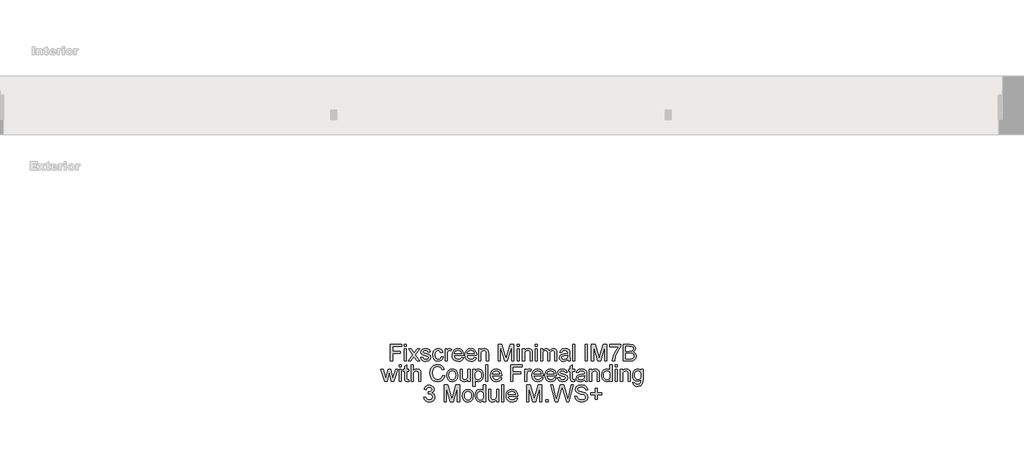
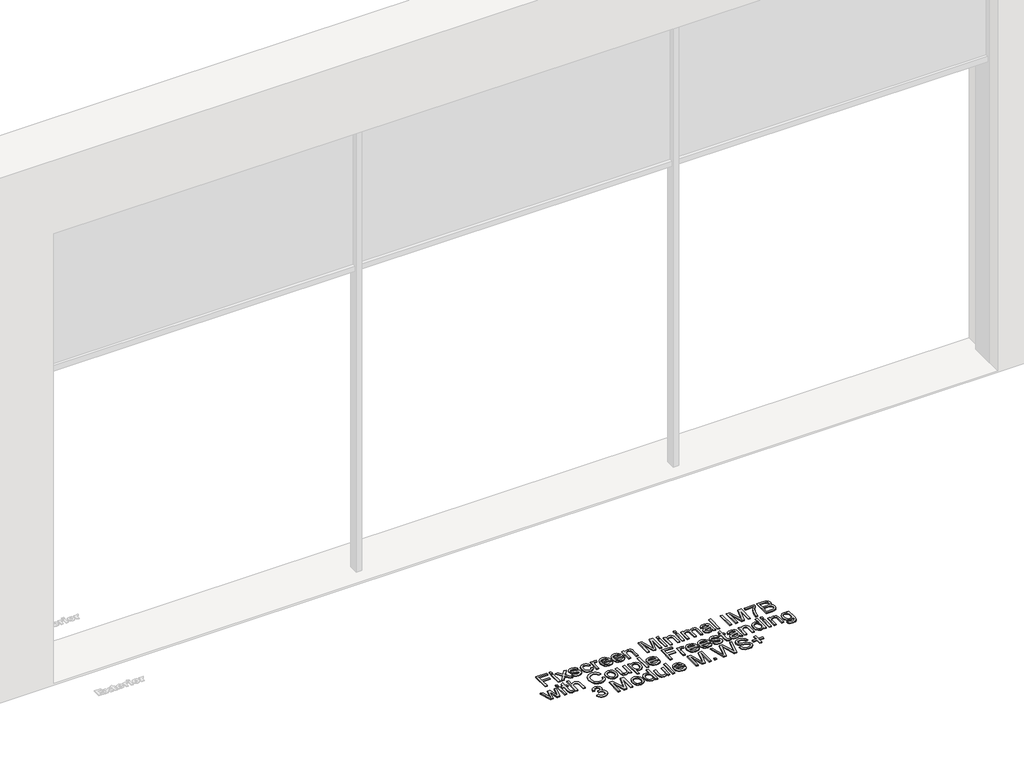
# One storey, part 12 of 14: 1 proxy.
"""IFC4 building model written with IfcOpenShell, lengths in millimetres."""

from ifc_helpers import new_model, si_unit, origin, origin_with_axes, place, context, project, spatial, polyline, outline, extrude, element, save

model = new_model("IFC4")

# Units and contexts
model_context = context("Model", 3, world=origin())
ifc_project = project(units=[si_unit("LENGTHUNIT", "METRE", prefix="MILLI")], contexts=[model_context])

# Site, building, storey
site = spatial("IfcSite", under=ifc_project)
building = spatial("IfcBuilding", under=site)
storey = spatial("IfcBuildingStorey", under=building, Name="Fixscreen Mini CF Overview Top", Elevation=0.0)

# Proxy
placement = place(None, origin())
element("IfcBuildingElementProxy", 1, Name="100mm Arial", ObjectType="100mm Arial", at=placement, inside=storey, context=model_context, shape_type="SweptSolid", body=[
    extrude(outline(polyline([(294.8320577, 2800.5131875), (294.8320577, 2900.9694977), (362.3261411, 2900.9694977), (362.3261411, 2888.4124589), (307.3890965, 2888.4124589), (307.3890965, 2858.5894918), (354.4779918, 2858.5894918), (354.4779918, 2846.0324531), (307.3890965, 2846.0324531), (307.3890965, 2800.5131875), (294.8320577, 2800.5131875)])), origin_with_axes(), (0.0, 0.0, 1.0), 5.0),
    extrude(outline(polyline([(378.0224395, 2800.5131875), (378.0224395, 2874.2857903), (390.5794783, 2874.2857903), (390.5794783, 2800.5131875), (378.0224395, 2800.5131875)])), origin_with_axes(), (0.0, 0.0, 1.0), 5.0),
    extrude(outline(polyline([(378.0224395, 2888.4124589), (378.0224395, 2900.9694977), (390.5794783, 2900.9694977), (390.5794783, 2888.4124589), (378.0224395, 2888.4124589)])), origin_with_axes(), (0.0, 0.0, 1.0), 5.0),
    extrude(outline(polyline([(401.5668872, 2800.5131875), (428.3977474, 2837.5956927), (403.1365171, 2874.2857903), (418.2442043, 2874.2857903), (430.4333611, 2856.6274545), (436.1232693, 2848.288796), (441.052888, 2855.1068756), (454.934302, 2874.2857903), (470.0419893, 2874.2857903), (443.5054347, 2837.5956927), (469.0609706, 2800.5131875), (453.9532833, 2800.5131875), (438.5758159, 2822.8068365), (435.7553873, 2826.8780639), (416.6745745, 2800.5131875), (401.5668872, 2800.5131875)])), origin_with_axes(), (0.0, 0.0, 1.0), 5.0),
    extrude(outline(polyline([(475.33949, 2822.4880054), (487.8965288, 2824.0576352), (493.7090643, 2814.737958), (507.0263925, 2811.5005965), (519.8286859, 2814.4681779), (523.9980152, 2821.4334103), (519.8041605, 2827.0742676), (506.8792397, 2830.6549857), (487.9701052, 2836.798615), (479.7172857, 2843.9723139), (476.9091198, 2854.1013315), (479.1654627, 2863.4577969), (485.3213548, 2870.6069704), (493.3043941, 2874.3225785), (504.107862, 2875.8554202), (519.3872275, 2873.3906108), (529.0993122, 2866.7196839), (533.4157943, 2855.4502322), (520.8587555, 2853.8806023), (516.1376033, 2860.8090466), (505.0888807, 2863.2983814), (493.0714022, 2860.9194112), (489.4661586, 2855.3766558), (490.9622121, 2851.7223613), (495.6465761, 2848.9509836), (506.4623068, 2846.2777077), (524.8931947, 2840.3670704), (533.4525825, 2833.671618), (536.555054, 2822.7577855), (532.9130222, 2810.740307), (522.4038599, 2802.0215037), (506.8547142, 2798.9435577), (494.1934422, 2800.4273484), (484.9534728, 2804.8787206), (478.785318, 2812.2486232), (475.33949, 2822.4880054)])), origin_with_axes(), (0.0, 0.0, 1.0), 5.0),
    extrude(outline(polyline([(597.770618, 2827.1968949), (610.3276568, 2825.6272651), (606.8266464, 2814.4589808), (600.2476901, 2806.0191547), (591.2100557, 2800.712457), (580.3330114, 2798.9435577), (566.9758293, 2801.4114327), (556.5310463, 2808.8150579), (549.7896088, 2820.8294707), (547.5424629, 2837.1297088), (551.3806984, 2857.9886179), (563.0793458, 2871.3917853), (580.1613332, 2875.8554202), (590.771663, 2874.3225785), (599.2544087, 2869.7240536), (605.33979, 2862.3051), (608.7580269, 2852.3109725), (596.2009881, 2850.7413426), (590.3761899, 2860.146859), (580.259435, 2863.2983814), (572.1445713, 2861.7471456), (565.7035707, 2857.0934384), (561.5005189, 2849.0858736), (560.0995017, 2837.4730653), (561.4698621, 2825.7039072), (565.5809434, 2817.6687513), (571.905448, 2813.0426352), (579.9160785, 2811.5005965), (591.749616, 2815.3510947), (597.770618, 2827.1968949)])), origin_with_axes(), (0.0, 0.0, 1.0), 5.0),
    extrude(outline(polyline([(621.3150657, 2800.5131875), (621.3150657, 2874.2857903), (632.3024746, 2874.2857903), (632.3024746, 2863.3719578), (640.1015729, 2873.427399), (647.9497221, 2875.8554202), (660.5558118, 2871.9803965), (656.3619571, 2860.7232074), (647.5327892, 2863.2983814), (640.4326667, 2860.8213093), (635.9077182, 2853.9541787), (633.8721044, 2839.2879498), (633.8721044, 2800.5131875), (621.3150657, 2800.5131875)])), origin_with_axes(), (0.0, 0.0, 1.0), 5.0),
    extrude(outline(polyline([(720.0545932, 2822.4880054), (732.3663773, 2820.9183755), (727.9303336, 2811.6416179), (720.8516708, 2804.7070423), (711.2898046, 2800.3844288), (699.4041505, 2798.9435577), (684.6704766, 2801.4298268), (673.3335798, 2808.8886343), (666.1046986, 2820.8356021), (663.6950715, 2836.7863523), (666.1292241, 2853.273597), (673.4316817, 2865.6037752), (684.6152943, 2873.2925089), (698.692912, 2875.8554202), (712.332137, 2873.2986403), (723.2306411, 2865.6283007), (730.3767488, 2853.322648), (732.7587848, 2836.8599287), (732.6852084, 2833.4754143), (676.2521103, 2833.4754143), (678.4256797, 2824.0760293), (683.4748601, 2817.1659792), (690.7619893, 2812.9169421), (699.6494052, 2811.5005965), (711.9611893, 2814.1248214), (720.0545932, 2822.4880054)]), holes=[polyline([(676.2521103, 2846.0324531), (720.201746, 2846.0324531), (715.1740254, 2857.4122695), (707.8531737, 2861.8268534), (698.6438611, 2863.2983814), (683.1805545, 2858.6017546), (678.3153151, 2853.1111158), (676.2521103, 2846.0324531)])]), origin_with_axes(), (0.0, 0.0, 1.0), 5.0),
    extrude(outline(polyline([(796.9664556, 2822.4880054), (809.2782397, 2820.9183755), (804.842196, 2811.6416179), (797.7635333, 2804.7070423), (788.2016671, 2800.3844288), (776.316013, 2798.9435577), (761.5823391, 2801.4298268), (750.2454423, 2808.8886343), (743.016561, 2820.8356021), (740.606934, 2836.7863523), (743.0410865, 2853.273597), (750.3435441, 2865.6037752), (761.5271568, 2873.2925089), (775.6047745, 2875.8554202), (789.2439994, 2873.2986403), (800.1425035, 2865.6283007), (807.2886113, 2853.322648), (809.6706472, 2836.8599287), (809.5970708, 2833.4754143), (753.1639728, 2833.4754143), (755.3375422, 2824.0760293), (760.3867226, 2817.1659792), (767.6738518, 2812.9169421), (776.5612676, 2811.5005965), (788.8730517, 2814.1248214), (796.9664556, 2822.4880054)]), holes=[polyline([(753.1639728, 2846.0324531), (797.1136084, 2846.0324531), (792.0858878, 2857.4122695), (784.7650361, 2861.8268534), (775.5557235, 2863.2983814), (760.092417, 2858.6017546), (755.2271776, 2853.1111158), (753.1639728, 2846.0324531)])]), origin_with_axes(), (0.0, 0.0, 1.0), 5.0),
    extrude(outline(polyline([(822.227686, 2800.5131875), (822.227686, 2874.2857903), (834.7847247, 2874.2857903), (834.7847247, 2863.9850944), (844.3864448, 2872.8878387), (857.4953066, 2875.8554202), (869.3533696, 2873.4641872), (877.4467735, 2867.1856678), (881.2114325, 2857.9518297), (881.8736201, 2845.8117239), (881.8736201, 2800.5131875), (869.3165814, 2800.5131875), (869.3165814, 2844.1194667), (867.8695788, 2855.229503), (862.7560191, 2861.1033521), (854.1353177, 2863.2983814), (840.5114211, 2858.3687627), (836.2163988, 2851.2257206), (834.7847247, 2839.6558318), (834.7847247, 2800.5131875), (822.227686, 2800.5131875)])), origin_with_axes(), (0.0, 0.0, 1.0), 5.0),
    extrude(outline(polyline([(939.9499244, 2800.5131875), (939.9499244, 2900.9694977), (961.5568603, 2900.9694977), (982.1092011, 2830.1644764), (986.2540049, 2815.3756201), (990.7421652, 2831.3907497), (1010.9511495, 2900.9694977), (1032.5580854, 2900.9694977), (1032.5580854, 2800.5131875), (1020.0010466, 2800.5131875), (1020.0010466, 2888.4124589), (994.7643417, 2800.5131875), (977.7436681, 2800.5131875), (952.5069632, 2888.4124589), (952.5069632, 2800.5131875), (939.9499244, 2800.5131875)])), origin_with_axes(), (0.0, 0.0, 1.0), 5.0),
    extrude(outline(polyline([(1052.9632734, 2888.4124589), (1052.9632734, 2900.9694977), (1065.5203121, 2900.9694977), (1065.5203121, 2888.4124589), (1052.9632734, 2888.4124589)])), origin_with_axes(), (0.0, 0.0, 1.0), 5.0),
    extrude(outline(polyline([(1052.9632734, 2800.5131875), (1052.9632734, 2874.2857903), (1065.5203121, 2874.2857903), (1065.5203121, 2800.5131875), (1052.9632734, 2800.5131875)])), origin_with_axes(), (0.0, 0.0, 1.0), 5.0),
    extrude(outline(polyline([(1084.3558703, 2800.5131875), (1084.3558703, 2874.2857903), (1096.912909, 2874.2857903), (1096.912909, 2863.9850944), (1106.5146291, 2872.8878387), (1119.6234909, 2875.8554202), (1131.4815539, 2873.4641872), (1139.5749578, 2867.1856678), (1143.3396168, 2857.9518297), (1144.0018044, 2845.8117239), (1144.0018044, 2800.5131875), (1131.4447657, 2800.5131875), (1131.4447657, 2844.1194667), (1129.9977631, 2855.229503), (1124.8842034, 2861.1033521), (1116.263502, 2863.2983814), (1102.6396054, 2858.3687627), (1098.3445831, 2851.2257206), (1096.912909, 2839.6558318), (1096.912909, 2800.5131875), (1084.3558703, 2800.5131875)])), origin_with_axes(), (0.0, 0.0, 1.0), 5.0),
    extrude(outline(polyline([(1161.2677327, 2800.5131875), (1161.2677327, 2874.2857903), (1173.8247715, 2874.2857903), (1173.8247715, 2800.5131875), (1161.2677327, 2800.5131875)])), origin_with_axes(), (0.0, 0.0, 1.0), 5.0),
    extrude(outline(polyline([(1161.2677327, 2888.4124589), (1161.2677327, 2900.9694977), (1173.8247715, 2900.9694977), (1173.8247715, 2888.4124589), (1161.2677327, 2888.4124589)])), origin_with_axes(), (0.0, 0.0, 1.0), 5.0),
    extrude(outline(polyline([(1192.6603297, 2800.5131875), (1192.6603297, 2874.2857903), (1205.2173684, 2874.2857903), (1205.2173684, 2862.1456845), (1213.8503326, 2872.0907611), (1226.1375912, 2875.8554202), (1238.7191555, 2872.0171847), (1245.635337, 2861.2627677), (1255.4332608, 2872.207257), (1267.8063585, 2875.8554202), (1277.2455974, 2874.3379069), (1284.2261583, 2869.7853672), (1288.5395746, 2862.0751738), (1289.9773801, 2851.0846991), (1289.9773801, 2800.5131875), (1277.4203413, 2800.5131875), (1277.4203413, 2845.6890966), (1276.2553817, 2856.1737334), (1272.0370015, 2861.3363441), (1264.8633026, 2863.2983814), (1252.5147303, 2858.2706608), (1248.8267133, 2851.7284926), (1247.5973743, 2842.1574294), (1247.5973743, 2800.5131875), (1235.0403355, 2800.5131875), (1235.0403355, 2847.0870481), (1232.1340677, 2859.2516794), (1222.6059241, 2863.2983814), (1213.3107723, 2860.6005801), (1207.1303548, 2852.7033799), (1205.2173684, 2837.71832), (1205.2173684, 2800.5131875), (1192.6603297, 2800.5131875)])), origin_with_axes(), (0.0, 0.0, 1.0), 5.0),
    extrude(outline(polyline([(1355.9018336, 2809.9309666), (1343.7249396, 2801.4206298), (1330.2727213, 2798.9435577), (1319.7788874, 2800.4334798), (1312.0380371, 2804.903246), (1307.2647682, 2811.6906688), (1305.6736786, 2820.1335606), (1308.0771743, 2830.0663745), (1314.3924819, 2837.2768616), (1323.1848615, 2841.3971399), (1334.0496431, 2843.2856008), (1355.8282572, 2847.6020829), (1355.9018336, 2850.3979861), (1352.4437429, 2859.6686124), (1338.5623289, 2863.2983814), (1325.8581374, 2860.882623), (1319.8003472, 2852.3109725), (1307.2433084, 2853.8806023), (1312.6756992, 2866.1433355), (1323.6140572, 2873.3292971), (1340.1810097, 2875.8554202), (1355.3990616, 2873.6236027), (1363.9952375, 2868.0195337), (1367.8457358, 2859.4969341), (1368.4588724, 2848.5095252), (1368.4588724, 2832.8868031), (1369.0965345, 2811.0714008), (1371.5981321, 2800.5131875), (1359.0410933, 2800.5131875), (1355.9018336, 2809.9309666)]), holes=[polyline([(1355.9018336, 2835.0450442), (1335.6437984, 2831.1945459), (1324.8403305, 2829.1589322), (1319.9475, 2825.8479943), (1318.2307173, 2821.0164774), (1321.970851, 2814.2229232), (1332.9459971, 2811.5005965), (1345.6501887, 2814.5049661), (1353.8416945, 2821.7767669), (1355.8282572, 2831.4888515), (1355.9018336, 2835.0450442)])]), origin_with_axes(), (0.0, 0.0, 1.0), 5.0),
    extrude(outline(polyline([(1385.7248007, 2800.5131875), (1385.7248007, 2900.9694977), (1398.2818395, 2900.9694977), (1398.2818395, 2800.5131875), (1385.7248007, 2800.5131875)])), origin_with_axes(), (0.0, 0.0, 1.0), 5.0),
    extrude(outline(polyline([(1459.4974035, 2800.5131875), (1459.4974035, 2900.9694977), (1472.0544423, 2900.9694977), (1472.0544423, 2800.5131875), (1459.4974035, 2800.5131875)])), origin_with_axes(), (0.0, 0.0, 1.0), 5.0),
    extrude(outline(polyline([(1497.1685198, 2800.5131875), (1497.1685198, 2900.9694977), (1518.7754556, 2900.9694977), (1539.3277964, 2830.1644764), (1543.4726003, 2815.3756201), (1547.9607606, 2831.3907497), (1568.1697449, 2900.9694977), (1589.7766807, 2900.9694977), (1589.7766807, 2800.5131875), (1577.2196419, 2800.5131875), (1577.2196419, 2888.4124589), (1551.9829371, 2800.5131875), (1534.9622634, 2800.5131875), (1509.7255586, 2888.4124589), (1509.7255586, 2800.5131875), (1497.1685198, 2800.5131875)])), origin_with_axes(), (0.0, 0.0, 1.0), 5.0),
    extrude(outline(polyline([(1607.042609, 2886.8428291), (1607.042609, 2899.3998678), (1672.9670626, 2899.3998678), (1672.9670626, 2889.2463248), (1654.2663945, 2862.2315236), (1639.9557849, 2827.8100316), (1635.2959463, 2800.5131875), (1622.7389075, 2800.5131875), (1627.7298399, 2828.8401012), (1641.4273128, 2860.8580975), (1660.4100238, 2886.8428291), (1607.042609, 2886.8428291)])), origin_with_axes(), (0.0, 0.0, 1.0), 5.0),
    extrude(outline(polyline([(1688.663361, 2800.5131875), (1688.663361, 2900.9694977), (1726.9966649, 2900.9694977), (1745.7709094, 2898.014179), (1756.8564202, 2888.9274937), (1760.8663339, 2876.0761494), (1757.4940823, 2864.3407137), (1747.303751, 2855.4502322), (1759.6768488, 2846.081504), (1764.0055936, 2830.458782), (1761.0502749, 2816.9575127), (1753.7294232, 2807.3435299), (1742.803328, 2802.2422329), (1726.7023593, 2800.5131875), (1688.663361, 2800.5131875)]), holes=[polyline([(1701.2203998, 2860.1591217), (1724.1517108, 2860.1591217), (1737.5426154, 2861.2382422), (1745.5992311, 2865.8858181), (1748.3092952, 2874.0650611), (1745.7831721, 2882.2565669), (1738.5481596, 2887.1003465), (1722.4104027, 2888.4124589), (1701.2203998, 2888.4124589), (1701.2203998, 2860.1591217)]), polyline([(1701.2203998, 2813.0702263), (1726.9721394, 2813.0702263), (1736.2918167, 2813.5607356), (1744.1767541, 2816.2953251), (1749.4006784, 2821.8748687), (1751.4485549, 2830.3361546), (1749.0450592, 2840.0972902), (1741.2582236, 2845.9220885), (1725.7458661, 2847.6020829), (1701.2203998, 2847.6020829), (1701.2203998, 2813.0702263)])]), origin_with_axes(), (0.0, 0.0, 1.0), 5.0),
    extrude(outline(polyline([(260.7661849, 2678.5383697), (238.3253832, 2752.3109725), (251.3729313, 2752.3109725), (264.1016484, 2709.268779), (267.9030956, 2693.8913116), (271.0178299, 2708.7046933), (281.1468475, 2752.3109725), (296.1073819, 2752.3109725), (306.1873486, 2708.8273206), (308.9587263, 2695.4118905), (312.9318519, 2709.5630846), (325.6850944, 2752.3109725), (338.7816934, 2752.3109725), (316.1692134, 2678.5383697), (300.9879497, 2678.5383697), (291.3494415, 2721.8012923), (288.5535383, 2735.2902988), (276.1191269, 2678.5383697), (260.7661849, 2678.5383697)])), origin_with_axes(), (0.0, 0.0, 1.0), 5.0),
    extrude(outline(polyline([(347.4146575, 2678.5383697), (347.4146575, 2752.3109725), (359.9716963, 2752.3109725), (359.9716963, 2678.5383697), (347.4146575, 2678.5383697)])), origin_with_axes(), (0.0, 0.0, 1.0), 5.0),
    extrude(outline(polyline([(347.4146575, 2766.4376411), (347.4146575, 2778.9946798), (359.9716963, 2778.9946798), (359.9716963, 2766.4376411), (347.4146575, 2766.4376411)])), origin_with_axes(), (0.0, 0.0, 1.0), 5.0),
    extrude(outline(polyline([(405.4909618, 2689.0107438), (407.0605917, 2678.1704877), (397.6673381, 2676.9687399), (387.145913, 2679.0534045), (381.8974632, 2684.5225835), (380.3768843, 2698.7718794), (380.3768843, 2739.7539337), (370.9591052, 2739.7539337), (370.9591052, 2752.3109725), (380.3768843, 2752.3109725), (380.3768843, 2770.2390884), (392.9339231, 2777.6212537), (392.9339231, 2752.3109725), (405.4909618, 2752.3109725), (405.4909618, 2739.7539337), (392.9339231, 2739.7539337), (392.9339231, 2699.1397614), (393.5961107, 2692.6650383), (395.742089, 2690.3719072), (400.0217828, 2689.5257786), (405.4909618, 2689.0107438)])), origin_with_axes(), (0.0, 0.0, 1.0), 5.0),
    extrude(outline(polyline([(418.0480006, 2678.5383697), (418.0480006, 2778.9946798), (430.6050394, 2778.9946798), (430.6050394, 2742.0593275), (440.3968318, 2750.9252836), (452.4572299, 2753.8806023), (466.559373, 2750.6555035), (475.1187608, 2741.7404965), (477.6939348, 2725.2348576), (477.6939348, 2678.5383697), (465.136896, 2678.5383697), (465.136896, 2723.9350079), (461.139245, 2737.1787597), (449.8084795, 2741.3235635), (439.5200464, 2738.5276604), (432.6529158, 2730.9492913), (430.6050394, 2717.7300649), (430.6050394, 2678.5383697), (418.0480006, 2678.5383697)])), origin_with_axes(), (0.0, 0.0, 1.0), 5.0),
    extrude(outline(polyline([(606.4035821, 2714.2474487), (618.9606209, 2711.0100871), (613.1664795, 2696.3775808), (604.0736628, 2685.6875431), (592.1297607, 2679.1484407), (577.7823629, 2676.9687399), (563.2173016, 2678.6180775), (551.6504785, 2683.5660903), (542.7845224, 2691.6411001), (536.3220621, 2702.6714286), (531.0613495, 2729.5268142), (532.5482059, 2744.174649), (537.0087751, 2756.8236583), (544.2100652, 2767.0722375), (553.9190842, 2774.5187822), (565.4337906, 2779.0529278), (578.052143, 2780.5643097), (591.8201267, 2778.6084038), (603.2030088, 2772.7406859), (611.84517, 2763.3229069), (617.3909911, 2750.7168172), (604.8339523, 2747.7247103), (594.5332564, 2763.1634913), (577.5616337, 2768.0072709), (557.9167352, 2762.6361938), (546.8189617, 2748.2152196), (543.6183883, 2729.5513397), (547.4075728, 2707.9198784), (559.2043222, 2694.0997781), (576.5315641, 2689.5257786), (587.0131353, 2691.0831457), (595.747267, 2695.7552471), (602.3415518, 2703.4930317), (606.4035821, 2714.2474487)])), origin_with_axes(), (0.0, 0.0, 1.0), 5.0),
    extrude(outline(polyline([(631.5176597, 2715.4246711), (634.2338551, 2733.2117655), (642.3824413, 2745.713622), (652.4501452, 2751.8388572), (664.5044119, 2753.8806023), (677.6960471, 2751.3943332), (688.2328006, 2743.9355257), (695.1397851, 2732.0927911), (697.4421132, 2716.4547407), (693.3708858, 2694.1120408), (681.5128228, 2681.4691629), (664.5044119, 2676.9687399), (651.1533612, 2679.445812), (640.6288704, 2686.8770283), (633.7954624, 2698.9680832), (631.5176597, 2715.4246711)]), holes=[polyline([(644.0746984, 2715.4491965), (645.5278323, 2704.0847086), (649.887234, 2695.988239), (656.4477962, 2691.1413937), (664.5044119, 2689.5257786), (672.5242394, 2691.1505908), (679.0725389, 2696.0250272), (683.4319406, 2704.2287957), (684.8850744, 2715.841604), (683.4227435, 2726.8749982), (679.0357507, 2734.8611032), (672.4782542, 2739.7079484), (664.5044119, 2741.3235635), (656.4477962, 2739.7140798), (649.887234, 2734.8856286), (645.5278323, 2726.8075531), (644.0746984, 2715.4491965)])]), origin_with_axes(), (0.0, 0.0, 1.0), 5.0),
    extrude(outline(polyline([(758.6576772, 2678.5383697), (758.6576772, 2691.2180358), (748.8229652, 2680.5310638), (735.9961463, 2676.9687399), (724.1871343, 2679.4703374), (716.0446794, 2685.7488568), (712.3045458, 2694.9949576), (711.5687818, 2706.6690796), (711.5687818, 2752.3109725), (724.1258206, 2752.3109725), (724.1258206, 2712.579717), (724.8861101, 2699.7774236), (729.852517, 2692.2603681), (739.2089824, 2689.5257786), (749.6936193, 2692.3216818), (756.6220635, 2699.9368391), (758.6576772, 2713.9286176), (758.6576772, 2752.3109725), (771.214716, 2752.3109725), (771.214716, 2678.5383697), (758.6576772, 2678.5383697)])), origin_with_axes(), (0.0, 0.0, 1.0), 5.0),
    extrude(outline(polyline([(788.4806443, 2650.2850325), (788.4806443, 2752.3109725), (801.0376831, 2752.3109725), (801.0376831, 2739.9991884), (809.7196981, 2750.4102488), (821.4428711, 2753.8806023), (837.3598987, 2749.02456), (847.7586964, 2735.3393498), (851.2658381, 2715.9887568), (847.3049753, 2695.6448825), (835.8025316, 2681.787994), (819.9222921, 2676.9687399), (808.9961969, 2680.1938387), (801.0376831, 2688.3485562), (801.0376831, 2650.2850325), (788.4806443, 2650.2850325)]), holes=[polyline([(801.0376831, 2714.8360599), (802.3957808, 2703.5788708), (806.4700739, 2695.7061961), (812.4818788, 2691.070883), (819.652512, 2689.5257786), (826.9396412, 2691.1260653), (833.1047303, 2695.9269253), (837.3077821, 2704.0877743), (838.7087994, 2715.7680276), (837.3415046, 2726.963903), (833.2396204, 2734.9469423), (827.2370125, 2739.7294082), (820.1675468, 2741.3235635), (813.07049, 2739.6282407), (806.8379558, 2734.5422721), (802.4877513, 2726.2250733), (801.0376831, 2714.8360599)])]), origin_with_axes(), (0.0, 0.0, 1.0), 5.0),
    extrude(outline(polyline([(865.3925067, 2678.5383697), (865.3925067, 2778.9946798), (877.9495455, 2778.9946798), (877.9495455, 2678.5383697), (865.3925067, 2678.5383697)])), origin_with_axes(), (0.0, 0.0, 1.0), 5.0),
    extrude(outline(polyline([(948.4357358, 2700.5131875), (960.7475199, 2698.9435577), (956.3114762, 2689.6668001), (949.2328134, 2682.7322244), (939.6709473, 2678.409611), (927.7852931, 2676.9687399), (913.0516192, 2679.455009), (901.7147224, 2686.9138165), (894.4858412, 2698.8607842), (892.0762141, 2714.8115344), (894.5103667, 2731.2987792), (901.8128243, 2743.6289574), (912.9964369, 2751.3176911), (927.0740546, 2753.8806023), (940.7132796, 2751.3238224), (951.6117837, 2743.6534828), (958.7578914, 2731.3478301), (961.1399274, 2714.8851108), (961.066351, 2711.5005965), (904.6332529, 2711.5005965), (906.8068224, 2702.1012115), (911.8560027, 2695.1911613), (919.1431319, 2690.9421243), (928.0305478, 2689.5257786), (940.3423319, 2692.1500035), (948.4357358, 2700.5131875)]), holes=[polyline([(904.6332529, 2724.0576352), (948.5828886, 2724.0576352), (943.555168, 2735.4374516), (936.2343163, 2739.8520356), (927.0250037, 2741.3235635), (911.5616971, 2736.6269367), (906.6964578, 2731.136298), (904.6332529, 2724.0576352)])]), origin_with_axes(), (0.0, 0.0, 1.0), 5.0),
    extrude(outline(polyline([(1014.5073421, 2678.5383697), (1014.5073421, 2778.9946798), (1082.0014255, 2778.9946798), (1082.0014255, 2766.4376411), (1027.0643809, 2766.4376411), (1027.0643809, 2736.614674), (1074.1532763, 2736.614674), (1074.1532763, 2724.0576352), (1027.0643809, 2724.0576352), (1027.0643809, 2678.5383697), (1014.5073421, 2678.5383697)])), origin_with_axes(), (0.0, 0.0, 1.0), 5.0),
    extrude(outline(polyline([(1097.697724, 2678.5383697), (1097.697724, 2752.3109725), (1108.6851329, 2752.3109725), (1108.6851329, 2741.3971399), (1116.4842312, 2751.4525811), (1124.3323804, 2753.8806023), (1136.9384701, 2750.0055786), (1132.7446154, 2738.7483896), (1123.9154475, 2741.3235635), (1116.815325, 2738.8464914), (1112.2903764, 2731.9793609), (1110.2547627, 2717.313132), (1110.2547627, 2678.5383697), (1097.697724, 2678.5383697)])), origin_with_axes(), (0.0, 0.0, 1.0), 5.0),
    extrude(outline(polyline([(1196.4372515, 2700.5131875), (1208.7490356, 2698.9435577), (1204.3129919, 2689.6668001), (1197.2343291, 2682.7322244), (1187.6724629, 2678.409611), (1175.7868088, 2676.9687399), (1161.0531349, 2679.455009), (1149.7162381, 2686.9138165), (1142.4873569, 2698.8607842), (1140.0777298, 2714.8115344), (1142.5118823, 2731.2987792), (1149.8143399, 2743.6289574), (1160.9979526, 2751.3176911), (1175.0755703, 2753.8806023), (1188.7147953, 2751.3238224), (1199.6132994, 2743.6534828), (1206.7594071, 2731.3478301), (1209.141443, 2714.8851108), (1209.0678666, 2711.5005965), (1152.6347686, 2711.5005965), (1154.808338, 2702.1012115), (1159.8575184, 2695.1911613), (1167.1446476, 2690.9421243), (1176.0320635, 2689.5257786), (1188.3438476, 2692.1500035), (1196.4372515, 2700.5131875)]), holes=[polyline([(1152.6347686, 2724.0576352), (1196.5844043, 2724.0576352), (1191.5566837, 2735.4374516), (1184.235832, 2739.8520356), (1175.0265194, 2741.3235635), (1159.5632128, 2736.6269367), (1154.6979734, 2731.136298), (1152.6347686, 2724.0576352)])]), origin_with_axes(), (0.0, 0.0, 1.0), 5.0),
    extrude(outline(polyline([(1273.3491139, 2700.5131875), (1285.660898, 2698.9435577), (1281.2248543, 2689.6668001), (1274.1461916, 2682.7322244), (1264.5843254, 2678.409611), (1252.6986713, 2676.9687399), (1237.9649974, 2679.455009), (1226.6281005, 2686.9138165), (1219.3992193, 2698.8607842), (1216.9895923, 2714.8115344), (1219.4237448, 2731.2987792), (1226.7262024, 2743.6289574), (1237.9098151, 2751.3176911), (1251.9874327, 2753.8806023), (1265.6266577, 2751.3238224), (1276.5251618, 2743.6534828), (1283.6712696, 2731.3478301), (1286.0533055, 2714.8851108), (1285.9797291, 2711.5005965), (1229.546631, 2711.5005965), (1231.7202005, 2702.1012115), (1236.7693809, 2695.1911613), (1244.0565101, 2690.9421243), (1252.9439259, 2689.5257786), (1265.25571, 2692.1500035), (1273.3491139, 2700.5131875)]), holes=[polyline([(1229.546631, 2724.0576352), (1273.4962667, 2724.0576352), (1268.4685461, 2735.4374516), (1261.1476944, 2739.8520356), (1251.9383818, 2741.3235635), (1236.4750753, 2736.6269367), (1231.6098359, 2731.136298), (1229.546631, 2724.0576352)])]), origin_with_axes(), (0.0, 0.0, 1.0), 5.0),
    extrude(outline(polyline([(1293.9014547, 2700.5131875), (1306.4584935, 2702.0828174), (1312.271029, 2692.7631402), (1325.5883572, 2689.5257786), (1338.3906507, 2692.49336), (1342.55998, 2699.4585925), (1338.3661252, 2705.0994497), (1325.4412044, 2708.6801678), (1306.5320699, 2714.8237972), (1298.2792505, 2721.9974961), (1295.4710846, 2732.1265137), (1297.7274275, 2741.4829791), (1303.8833195, 2748.6321525), (1311.8663588, 2752.3477607), (1322.6698268, 2753.8806023), (1337.9491923, 2751.4157929), (1347.661277, 2744.7448661), (1351.977759, 2733.4754143), (1339.4207203, 2731.9057845), (1334.699568, 2738.8342287), (1323.6508454, 2741.3235635), (1311.6333669, 2738.9445933), (1308.0281233, 2733.4018379), (1309.5241768, 2729.7475434), (1314.2085409, 2726.9761657), (1325.0242715, 2724.3028899), (1343.4551595, 2718.3922525), (1352.0145472, 2711.6968002), (1355.1170187, 2700.7829677), (1351.474987, 2688.7654892), (1340.9658246, 2680.0466859), (1325.416679, 2676.9687399), (1312.755407, 2678.4525306), (1303.5154375, 2682.9039027), (1297.3472827, 2690.2738053), (1293.9014547, 2700.5131875)])), origin_with_axes(), (0.0, 0.0, 1.0), 5.0),
    extrude(outline(polyline([(1395.9273947, 2689.0107438), (1397.4970246, 2678.1704877), (1388.103771, 2676.9687399), (1377.5823459, 2679.0534045), (1372.3338961, 2684.5225835), (1370.8133172, 2698.7718794), (1370.8133172, 2739.7539337), (1361.3955381, 2739.7539337), (1361.3955381, 2752.3109725), (1370.8133172, 2752.3109725), (1370.8133172, 2770.2390884), (1383.370356, 2777.6212537), (1383.370356, 2752.3109725), (1395.9273947, 2752.3109725), (1395.9273947, 2739.7539337), (1383.370356, 2739.7539337), (1383.370356, 2699.1397614), (1384.0325435, 2692.6650383), (1386.1785219, 2690.3719072), (1390.4582157, 2689.5257786), (1395.9273947, 2689.0107438)])), origin_with_axes(), (0.0, 0.0, 1.0), 5.0),
    extrude(outline(polyline([(1455.5733289, 2687.9561488), (1443.3964348, 2679.445812), (1429.9442165, 2676.9687399), (1419.4503826, 2678.4586619), (1411.7095323, 2682.9284282), (1406.9362634, 2689.715851), (1405.3451738, 2698.1587428), (1407.7486695, 2708.0915566), (1414.0639771, 2715.3020437), (1422.8563568, 2719.4223221), (1433.7211384, 2721.310783), (1455.4997525, 2725.6272651), (1455.5733289, 2728.4231682), (1452.1152381, 2737.6937945), (1438.2338242, 2741.3235635), (1425.5296326, 2738.9078051), (1419.4718424, 2730.3361546), (1406.9148036, 2731.9057845), (1412.3471944, 2744.1685176), (1423.2855524, 2751.3544793), (1439.8525049, 2753.8806023), (1455.0705568, 2751.6487849), (1463.6667328, 2746.0447158), (1467.517231, 2737.5221163), (1468.1303676, 2726.5347073), (1468.1303676, 2710.9119853), (1468.7680298, 2689.096583), (1471.2696273, 2678.5383697), (1458.7125886, 2678.5383697), (1455.5733289, 2687.9561488)]), holes=[polyline([(1455.5733289, 2713.0702263), (1435.3152937, 2709.2197281), (1424.5118257, 2707.1841144), (1419.6189952, 2703.8731764), (1417.9022126, 2699.0416596), (1421.6423462, 2692.2481054), (1432.6174924, 2689.5257786), (1445.3216839, 2692.5301482), (1453.5131897, 2699.801949), (1455.4997525, 2709.5140337), (1455.5733289, 2713.0702263)])]), origin_with_axes(), (0.0, 0.0, 1.0), 5.0),
    extrude(outline(polyline([(1485.3962959, 2678.5383697), (1485.3962959, 2752.3109725), (1497.9533347, 2752.3109725), (1497.9533347, 2742.0102766), (1507.5550548, 2750.9130209), (1520.6639166, 2753.8806023), (1532.5219795, 2751.4893693), (1540.6153834, 2745.21085), (1544.3800425, 2735.9770119), (1545.0422301, 2723.836906), (1545.0422301, 2678.5383697), (1532.4851913, 2678.5383697), (1532.4851913, 2722.1446489), (1531.0381888, 2733.2546851), (1525.9246291, 2739.1285343), (1517.3039277, 2741.3235635), (1503.6800311, 2736.3939448), (1499.3850088, 2729.2509027), (1497.9533347, 2717.681014), (1497.9533347, 2678.5383697), (1485.3962959, 2678.5383697)])), origin_with_axes(), (0.0, 0.0, 1.0), 5.0),
    extrude(outline(polyline([(1607.8274239, 2678.5383697), (1607.8274239, 2690.3841699), (1599.5194222, 2680.3225974), (1588.0353726, 2676.9687399), (1572.4862269, 2681.8247822), (1561.498818, 2695.3751023), (1557.5992689, 2715.3510947), (1561.1922497, 2735.3393498), (1571.9589294, 2749.0981364), (1587.9863217, 2753.8806023), (1599.5623418, 2750.4592998), (1607.8274239, 2741.5688182), (1607.8274239, 2778.9946798), (1620.3844627, 2778.9946798), (1620.3844627, 2678.5383697), (1607.8274239, 2678.5383697)]), holes=[polyline([(1570.1563076, 2715.4001456), (1571.5726533, 2704.041789), (1575.8216904, 2695.9637135), (1581.9959765, 2691.1352623), (1589.1880695, 2689.5257786), (1596.3770968, 2691.061686), (1602.3950331, 2695.6694079), (1606.4693262, 2703.4347837), (1607.8274239, 2714.4436524), (1606.4448008, 2726.479525), (1602.2969313, 2734.824315), (1596.1257108, 2739.6987514), (1588.6730347, 2741.3235635), (1581.4073653, 2739.7631307), (1575.4538084, 2735.0818324), (1571.4806828, 2727.0405451), (1570.1563076, 2715.4001456)])]), origin_with_axes(), (0.0, 0.0, 1.0), 5.0),
    extrude(outline(polyline([(1639.2200209, 2678.5383697), (1639.2200209, 2752.3109725), (1651.7770596, 2752.3109725), (1651.7770596, 2678.5383697), (1639.2200209, 2678.5383697)])), origin_with_axes(), (0.0, 0.0, 1.0), 5.0),
    extrude(outline(polyline([(1639.2200209, 2766.4376411), (1639.2200209, 2778.9946798), (1651.7770596, 2778.9946798), (1651.7770596, 2766.4376411), (1639.2200209, 2766.4376411)])), origin_with_axes(), (0.0, 0.0, 1.0), 5.0),
    extrude(outline(polyline([(1670.6126178, 2678.5383697), (1670.6126178, 2752.3109725), (1683.1696566, 2752.3109725), (1683.1696566, 2742.0102766), (1692.7713766, 2750.9130209), (1705.8802384, 2753.8806023), (1717.7383014, 2751.4893693), (1725.8317053, 2745.21085), (1729.5963643, 2735.9770119), (1730.2585519, 2723.836906), (1730.2585519, 2678.5383697), (1717.7015132, 2678.5383697), (1717.7015132, 2722.1446489), (1716.2545107, 2733.2546851), (1711.1409509, 2739.1285343), (1702.5202495, 2741.3235635), (1688.8963529, 2736.3939448), (1684.6013307, 2729.2509027), (1683.1696566, 2717.681014), (1683.1696566, 2678.5383697), (1670.6126178, 2678.5383697)])), origin_with_axes(), (0.0, 0.0, 1.0), 5.0),
    extrude(outline(polyline([(1744.3852206, 2672.2598503), (1756.9422593, 2670.6902205), (1761.0134867, 2664.0683446), (1773.2026435, 2661.2724414), (1786.0539879, 2664.4362265), (1792.1853545, 2673.3144454), (1793.0437458, 2687.9561488), (1784.2023152, 2680.8928145), (1773.4233727, 2678.5383697), (1760.4769922, 2681.2790906), (1750.8231555, 2689.5012532), (1744.8174819, 2701.5555199), (1742.8155907, 2715.7925531), (1746.4085715, 2735.2535106), (1756.8073693, 2749.02456), (1772.810236, 2753.8806023), (1784.0122428, 2751.1337501), (1793.0437458, 2742.8931934), (1793.0437458, 2752.3109725), (1805.6007846, 2752.3109725), (1805.6007846, 2688.6183364), (1802.1672193, 2664.2277601), (1791.2901749, 2652.8847319), (1772.9573888, 2648.7154026), (1761.2740698, 2650.1838649), (1752.0739543, 2654.5892518), (1746.1725139, 2661.943826), (1744.3852206, 2672.2598503)]), holes=[polyline([(1755.3726295, 2716.6509444), (1756.7123331, 2705.1331723), (1760.7314439, 2697.2145123), (1766.7739056, 2692.6251844), (1774.1836622, 2691.0954085), (1781.5382364, 2692.6159874), (1787.611355, 2697.1777241), (1791.6856481, 2704.9952165), (1793.0437458, 2716.2830624), (1791.6457942, 2727.1693038), (1787.4519395, 2735.008256), (1781.289916, 2739.7447366), (1773.9874584, 2741.3235635), (1766.8168252, 2739.7692621), (1760.8050203, 2735.1063578), (1756.7307272, 2727.3839016), (1755.3726295, 2716.6509444)])]), origin_with_axes(), (0.0, 0.0, 1.0), 5.0),
    extrude(outline(polyline([(494.9598631, 2583.2472592), (507.5169018, 2584.8168891), (514.4453461, 2571.5976627), (527.407055, 2567.5509608), (536.0154937, 2568.942781), (542.6618951, 2573.1182416), (548.3272778, 2586.9015537), (542.710946, 2599.8877882), (528.4371246, 2605.0258734), (519.6324822, 2603.6524472), (521.0304338, 2616.209486), (523.041522, 2616.0623332), (537.290818, 2619.6675768), (542.0364957, 2624.2415762), (543.6183883, 2630.7530875), (539.0321261, 2640.5755368), (527.2108513, 2644.4628232), (515.2424237, 2640.5387486), (509.0865317, 2628.7665248), (496.5294929, 2630.3361546), (500.226707, 2641.6117378), (506.8056633, 2650.0301041), (515.8065095, 2655.2724225), (526.7693929, 2657.019862), (541.9138684, 2653.574034), (552.5088698, 2644.1562549), (556.1754271, 2631.4888515), (552.6928108, 2619.9128314), (542.392115, 2611.5986983), (556.0773252, 2603.0147851), (560.8843166, 2586.6808245), (558.4808209, 2574.4426168), (551.2703338, 2564.2154974), (540.3871581, 2557.2993158), (526.9655966, 2554.993922), (514.8254908, 2556.9620907), (504.9417279, 2562.8665967), (498.0684659, 2571.8980997), (494.9598631, 2583.2472592)])), origin_with_axes(), (0.0, 0.0, 1.0), 5.0),
    extrude(outline(polyline([(615.8213612, 2556.5635519), (615.8213612, 2657.019862), (637.4282971, 2657.019862), (657.9806379, 2586.2148407), (662.1254417, 2571.4259845), (666.613602, 2587.441114), (686.8225863, 2657.019862), (708.4295221, 2657.019862), (708.4295221, 2556.5635519), (695.8724834, 2556.5635519), (695.8724834, 2644.4628232), (670.6357785, 2556.5635519), (653.6151049, 2556.5635519), (628.3784, 2644.4628232), (628.3784, 2556.5635519), (615.8213612, 2556.5635519)])), origin_with_axes(), (0.0, 0.0, 1.0), 5.0),
    extrude(outline(polyline([(725.6954504, 2593.4498532), (728.4116458, 2611.2369477), (736.560232, 2623.7388042), (746.627936, 2629.8640394), (758.6822027, 2631.9057845), (771.8738379, 2629.4195153), (782.4105914, 2621.9607079), (789.3175758, 2610.1179733), (791.619904, 2594.4799228), (787.5486766, 2572.137223), (775.6906136, 2559.4943451), (758.6822027, 2554.993922), (745.3311519, 2557.4709941), (734.8066612, 2564.9022104), (727.9732531, 2576.9932653), (725.6954504, 2593.4498532)]), holes=[polyline([(738.2524892, 2593.4743787), (739.7056231, 2582.1098907), (744.0650247, 2574.0134212), (750.625587, 2569.1665759), (758.6822027, 2567.5509608), (766.7020302, 2569.1757729), (773.2503297, 2574.0502094), (777.6097313, 2582.2539778), (779.0628652, 2593.8667862), (777.6005343, 2604.9001803), (773.2135415, 2612.8862853), (766.6560449, 2617.7331306), (758.6822027, 2619.3487457), (750.625587, 2617.739262), (744.0650247, 2612.9108108), (739.7056231, 2604.8327353), (738.2524892, 2593.4743787)])]), origin_with_axes(), (0.0, 0.0, 1.0), 5.0),
    extrude(outline(polyline([(851.2658381, 2556.5635519), (851.2658381, 2568.4093521), (842.9578364, 2558.3477795), (831.4737868, 2554.993922), (815.9246411, 2559.8499643), (804.9372322, 2573.4002845), (801.0376831, 2593.3762768), (804.6306639, 2613.3645319), (815.3973436, 2627.1233185), (831.4247359, 2631.9057845), (843.000756, 2628.4844819), (851.2658381, 2619.5940004), (851.2658381, 2657.019862), (863.8228769, 2657.019862), (863.8228769, 2556.5635519), (851.2658381, 2556.5635519)]), holes=[polyline([(813.5947218, 2593.4253278), (815.0110675, 2582.0669712), (819.2601046, 2573.9888957), (825.4343907, 2569.1604445), (832.6264837, 2567.5509608), (839.815511, 2569.0868681), (845.8334473, 2573.6945901), (849.9077404, 2581.4599659), (851.2658381, 2592.4688346), (849.883215, 2604.5047072), (845.7353455, 2612.8494971), (839.564125, 2617.7239336), (832.1114489, 2619.3487457), (824.8457795, 2617.7883129), (818.8922226, 2613.1070145), (814.919097, 2605.0657272), (813.5947218, 2593.4253278)])]), origin_with_axes(), (0.0, 0.0, 1.0), 5.0),
    extrude(outline(polyline([(929.7473304, 2556.5635519), (929.7473304, 2569.243218), (919.9126184, 2558.556246), (907.0857995, 2554.993922), (895.2767875, 2557.4955196), (887.1343327, 2563.774039), (883.394199, 2573.0201398), (882.6584351, 2584.6942618), (882.6584351, 2630.3361546), (895.2154738, 2630.3361546), (895.2154738, 2590.6048991), (895.9757633, 2577.8026057), (900.9421702, 2570.2855503), (910.2986356, 2567.5509608), (920.7832725, 2570.3468639), (927.7117167, 2577.9620212), (929.7473304, 2591.9537998), (929.7473304, 2630.3361546), (942.3043692, 2630.3361546), (942.3043692, 2556.5635519), (929.7473304, 2556.5635519)])), origin_with_axes(), (0.0, 0.0, 1.0), 5.0),
    extrude(outline(polyline([(959.5702975, 2556.5635519), (959.5702975, 2657.019862), (972.1273363, 2657.019862), (972.1273363, 2556.5635519), (959.5702975, 2556.5635519)])), origin_with_axes(), (0.0, 0.0, 1.0), 5.0),
    extrude(outline(polyline([(1042.6135266, 2578.5383697), (1054.9253107, 2576.9687399), (1050.4892669, 2567.6919822), (1043.4106042, 2560.7574066), (1033.848738, 2556.4347932), (1021.9630839, 2554.993922), (1007.22941, 2557.4801912), (995.8925132, 2564.9389986), (988.663632, 2576.8859664), (986.2540049, 2592.8367166), (988.6881574, 2609.3239613), (995.990615, 2621.6541395), (1007.1742277, 2629.3428732), (1021.2518454, 2631.9057845), (1034.8910703, 2629.3490046), (1045.7895744, 2621.678665), (1052.9356822, 2609.3730123), (1055.3177181, 2592.910293), (1055.2441417, 2589.5257786), (998.8110437, 2589.5257786), (1000.9846131, 2580.1263936), (1006.0337935, 2573.2163435), (1013.3209227, 2568.9673065), (1022.2083386, 2567.5509608), (1034.5201227, 2570.1751857), (1042.6135266, 2578.5383697)]), holes=[polyline([(998.8110437, 2602.0828174), (1042.7606794, 2602.0828174), (1037.7329588, 2613.4626338), (1030.412107, 2617.8772177), (1021.2027944, 2619.3487457), (1005.7394879, 2614.6521189), (1000.8742485, 2609.1614801), (998.8110437, 2602.0828174)])]), origin_with_axes(), (0.0, 0.0, 1.0), 5.0),
    extrude(outline(polyline([(1108.6851329, 2556.5635519), (1108.6851329, 2657.019862), (1130.2920687, 2657.019862), (1150.8444095, 2586.2148407), (1154.9892133, 2571.4259845), (1159.4773737, 2587.441114), (1179.686358, 2657.019862), (1201.2932938, 2657.019862), (1201.2932938, 2556.5635519), (1188.736255, 2556.5635519), (1188.736255, 2644.4628232), (1163.4995502, 2556.5635519), (1146.4788765, 2556.5635519), (1121.2421717, 2644.4628232), (1121.2421717, 2556.5635519), (1108.6851329, 2556.5635519)])), origin_with_axes(), (0.0, 0.0, 1.0), 5.0),
    extrude(outline(polyline([(1224.8377415, 2556.5635519), (1224.8377415, 2569.1205906), (1237.3947803, 2569.1205906), (1237.3947803, 2556.5635519), (1224.8377415, 2556.5635519)])), origin_with_axes(), (0.0, 0.0, 1.0), 5.0),
    extrude(outline(polyline([(1280.4860246, 2556.5635519), (1253.0910787, 2657.019862), (1266.040525, 2657.019862), (1281.9330272, 2590.9973066), (1286.8381204, 2570.6166441), (1292.0865702, 2588.6428618), (1312.0012489, 2657.019862), (1330.6651288, 2657.019862), (1345.1351539, 2607.4538945), (1355.9018336, 2570.6166441), (1360.6597741, 2590.4086954), (1376.6994291, 2657.019862), (1389.6488753, 2657.019862), (1362.229404, 2556.5635519), (1348.8139739, 2556.5635519), (1324.7299659, 2634.0640255), (1321.369977, 2644.8797562), (1317.5930552, 2631.8567335), (1295.6427628, 2556.5635519), (1280.4860246, 2556.5635519)])), origin_with_axes(), (0.0, 0.0, 1.0), 5.0),
    extrude(outline(polyline([(1397.4970246, 2591.0954085), (1410.0540633, 2591.0954085), (1414.1007653, 2578.526107), (1423.9845282, 2570.5798559), (1439.0431646, 2567.5509608), (1452.1642891, 2569.8440919), (1460.6378377, 2576.1471367), (1463.4214781, 2584.5716344), (1461.3368135, 2592.4075209), (1452.8019512, 2598.1096918), (1434.518216, 2602.9044205), (1414.8365293, 2609.0971008), (1404.1556887, 2618.4413034), (1400.6362843, 2630.9247658), (1404.9895545, 2645.1372736), (1417.7060088, 2655.1681893), (1436.3208378, 2658.5894918), (1456.1864655, 2655.0087738), (1469.4302174, 2644.4873487), (1474.408887, 2628.7665248), (1461.8518483, 2628.7665248), (1459.5464544, 2636.2590547), (1454.739463, 2641.6669201), (1436.8113471, 2646.0324531), (1418.8341803, 2641.715971), (1413.193323, 2631.2926478), (1417.190974, 2622.5861073), (1437.6942639, 2615.5718239), (1459.9143364, 2609.268779), (1472.066705, 2599.0907105), (1475.9785169, 2584.8904655), (1471.4780938, 2569.8686173), (1458.5286476, 2558.9057339), (1439.5336739, 2554.993922), (1417.1051349, 2559.2123022), (1402.9171526, 2571.9164938), (1397.4970246, 2591.0954085)])), origin_with_axes(), (0.0, 0.0, 1.0), 5.0),
    extrude(outline(polyline([(1518.3585227, 2572.2598503), (1518.3585227, 2598.9435577), (1491.6748153, 2598.9435577), (1491.6748153, 2611.5005965), (1518.3585227, 2611.5005965), (1518.3585227, 2638.1843038), (1530.9155615, 2638.1843038), (1530.9155615, 2611.5005965), (1557.5992689, 2611.5005965), (1557.5992689, 2598.9435577), (1530.9155615, 2598.9435577), (1530.9155615, 2572.2598503), (1518.3585227, 2572.2598503)])), origin_with_axes(), (0.0, 0.0, 1.0), 5.0),
])

save(model, "model.ifc")
